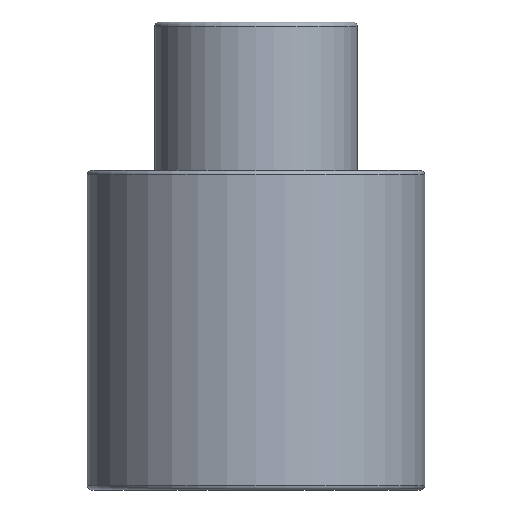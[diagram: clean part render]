
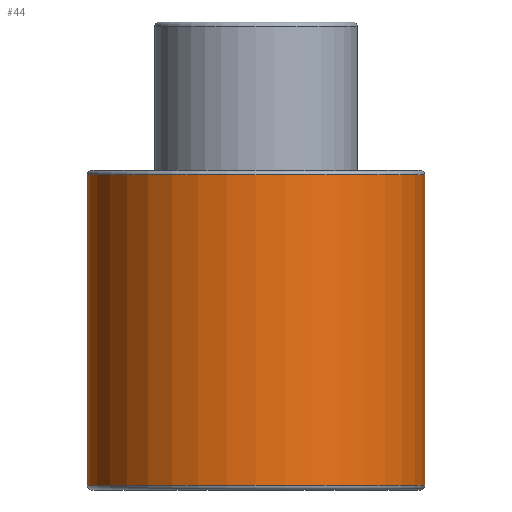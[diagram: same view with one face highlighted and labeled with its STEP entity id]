
A CAD part, front view. The second image highlights one B-rep face of the part: STEP entity #44.
In plain terms, the highlighted cylindrical face has radius 37.5 mm (diameter 75 mm), a full revolution.
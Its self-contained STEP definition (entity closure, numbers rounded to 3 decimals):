
#44=ADVANCED_FACE('',(#60,#61),#56,.T.);
#56=CYLINDRICAL_SURFACE('',#166,37.5);
#60=FACE_BOUND('',#84,.T.);
#61=FACE_BOUND('',#85,.T.);
#84=EDGE_LOOP('',(#106));
#85=EDGE_LOOP('',(#107));
#106=ORIENTED_EDGE('',*,*,#141,.F.);
#107=ORIENTED_EDGE('',*,*,#142,.T.);
#128=VERTEX_POINT('',#237);
#129=VERTEX_POINT('',#239);
#141=EDGE_CURVE('',#128,#128,#152,.T.);
#142=EDGE_CURVE('',#129,#129,#153,.T.);
#152=CIRCLE('',#164,37.5);
#153=CIRCLE('',#165,37.5);
#164=AXIS2_PLACEMENT_3D('',#236,#189,#190);
#165=AXIS2_PLACEMENT_3D('',#238,#191,#192);
#166=AXIS2_PLACEMENT_3D('',#240,#193,#194);
#189=DIRECTION('',(0.,0.,-1.));
#190=DIRECTION('',(-1.,0.,0.));
#191=DIRECTION('',(0.,0.,-1.));
#192=DIRECTION('',(-1.,0.,0.));
#193=DIRECTION('',(0.,0.,-1.));
#194=DIRECTION('',(-1.,0.,0.));
#236=CARTESIAN_POINT('',(0.,0.,1.));
#237=CARTESIAN_POINT('',(-37.5,0.,1.));
#238=CARTESIAN_POINT('',(0.,0.,70.));
#239=CARTESIAN_POINT('',(-37.5,0.,70.));
#240=CARTESIAN_POINT('',(0.,0.,0.));
